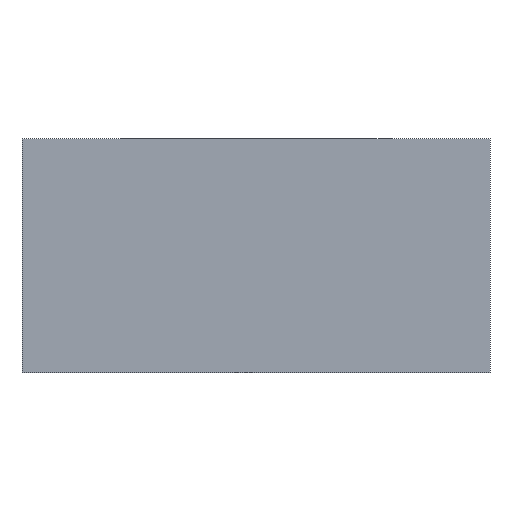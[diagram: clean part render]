
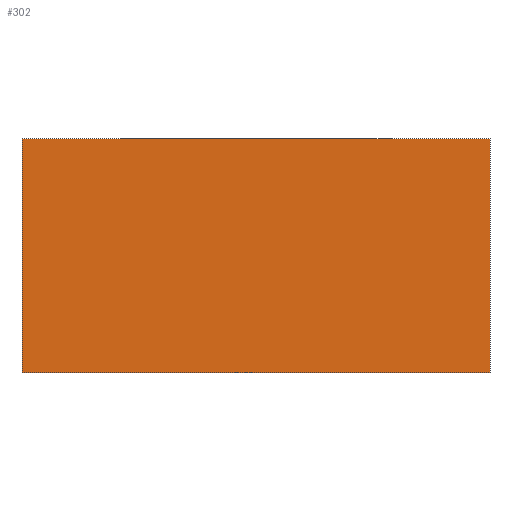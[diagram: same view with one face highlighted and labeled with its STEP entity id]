
A CAD part, left-side view. The second image highlights one B-rep face of the part: STEP entity #302.
In plain terms, the highlighted planar face has unit normal (-1, 0, 0).
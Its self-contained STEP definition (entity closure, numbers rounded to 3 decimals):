
#75=ORIENTED_EDGE('',*,*,#145,.F.);
#76=ORIENTED_EDGE('',*,*,#150,.F.);
#77=ORIENTED_EDGE('',*,*,#147,.F.);
#78=ORIENTED_EDGE('',*,*,#125,.F.);
#125=EDGE_CURVE('',#165,#166,#193,.T.);
#145=EDGE_CURVE('',#184,#165,#209,.T.);
#147=EDGE_CURVE('',#166,#186,#211,.T.);
#150=EDGE_CURVE('',#186,#184,#214,.T.);
#165=VERTEX_POINT('',#453);
#166=VERTEX_POINT('',#455);
#184=VERTEX_POINT('',#505);
#186=VERTEX_POINT('',#511);
#193=LINE('',#454,#217);
#209=LINE('',#506,#233);
#211=LINE('',#510,#235);
#214=LINE('',#515,#238);
#217=VECTOR('',#367,1000.);
#233=VECTOR('',#385,1000.);
#235=VECTOR('',#389,1000.);
#238=VECTOR('',#394,1000.);
#244=EDGE_LOOP('',(#75,#76,#77,#78));
#268=FACE_BOUND('',#244,.T.);
#291=PLANE('',#335);
#302=ADVANCED_FACE('',(#268),#291,.F.);
#335=AXIS2_PLACEMENT_3D('',#516,#395,#396);
#367=DIRECTION('',(0.,-1.,0.));
#385=DIRECTION('',(0.,0.,1.));
#389=DIRECTION('',(0.,0.,-1.));
#394=DIRECTION('',(0.,1.,0.));
#395=DIRECTION('',(1.,0.,0.));
#396=DIRECTION('',(0.,0.,-1.));
#453=CARTESIAN_POINT('',(-19.,60.,30.));
#454=CARTESIAN_POINT('',(-19.,60.,30.));
#455=CARTESIAN_POINT('',(-19.,-60.,30.));
#505=CARTESIAN_POINT('',(-19.,60.,-30.));
#506=CARTESIAN_POINT('',(-19.,60.,-30.));
#510=CARTESIAN_POINT('',(-19.,-60.,30.));
#511=CARTESIAN_POINT('',(-19.,-60.,-30.));
#515=CARTESIAN_POINT('',(-19.,-60.,-30.));
#516=CARTESIAN_POINT('',(-19.,0.,0.));
